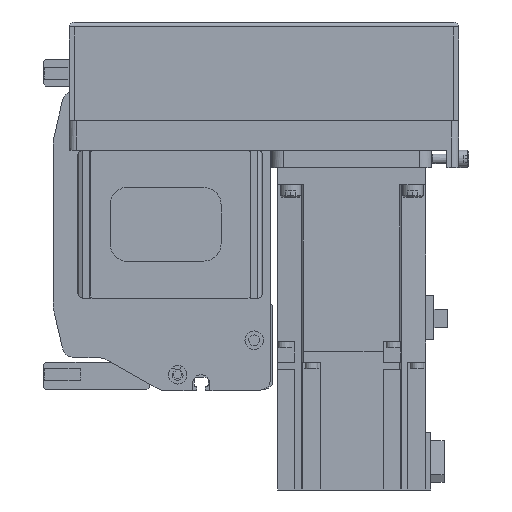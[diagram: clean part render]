
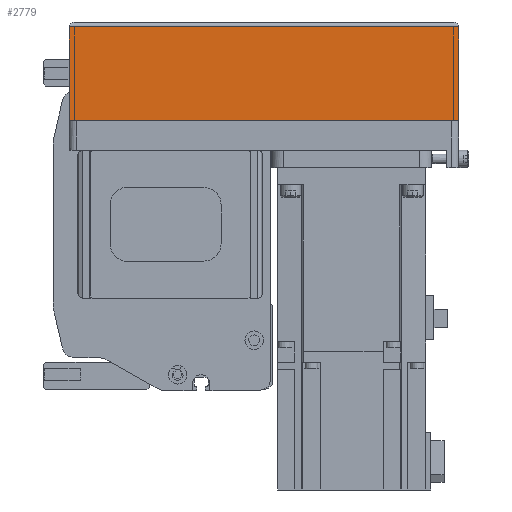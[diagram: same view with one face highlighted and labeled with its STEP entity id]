
A CAD part, left-side view. The second image highlights one B-rep face of the part: STEP entity #2779.
In plain terms, the highlighted planar face has unit normal (-1, 0, 0) as drawn and (0, -1, 0) by its records, which use the part's own axes.
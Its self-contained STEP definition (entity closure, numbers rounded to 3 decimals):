
#2779 = ADVANCED_FACE( '', ( #6081 ), #6082, .T. );
#6081 = FACE_OUTER_BOUND( '', #9833, .T. );
#6082 = PLANE( '', #9834 );
#9833 = EDGE_LOOP( '', ( #17806, #17807, #17808, #17809 ) );
#9834 = AXIS2_PLACEMENT_3D( '', #17810, #17811, #17812 );
#17806 = ORIENTED_EDGE( '', *, *, #24103, .F. );
#17807 = ORIENTED_EDGE( '', *, *, #22066, .F. );
#17808 = ORIENTED_EDGE( '', *, *, #24104, .T. );
#17809 = ORIENTED_EDGE( '', *, *, #21487, .T. );
#17810 = CARTESIAN_POINT( '', ( -158., -39., -12.1 ) );
#17811 = DIRECTION( '', ( 0., -1., 0. ) );
#17812 = DIRECTION( '', ( 0., 0., -1. ) );
#21487 = EDGE_CURVE( '', #25773, #25777, #25779, .T. );
#22066 = EDGE_CURVE( '', #26765, #25584, #26766, .T. );
#24103 = EDGE_CURVE( '', #25584, #25777, #29703, .T. );
#24104 = EDGE_CURVE( '', #26765, #25773, #29704, .T. );
#25584 = VERTEX_POINT( '', #31569 );
#25773 = VERTEX_POINT( '', #31823 );
#25777 = VERTEX_POINT( '', #31828 );
#25779 = LINE( '', #31830, #31831 );
#26765 = VERTEX_POINT( '', #33327 );
#26766 = LINE( '', #33328, #33329 );
#29703 = LINE( '', #38421, #38422 );
#29704 = LINE( '', #38423, #38424 );
#31569 = CARTESIAN_POINT( '', ( 0., -39., -12.1 ) );
#31823 = CARTESIAN_POINT( '', ( -158., -39., -50. ) );
#31828 = CARTESIAN_POINT( '', ( 0., -39., -50. ) );
#31830 = CARTESIAN_POINT( '', ( -158., -39., -50. ) );
#31831 = VECTOR( '', #40191, 1000. );
#33327 = CARTESIAN_POINT( '', ( -158., -39., -12.1 ) );
#33328 = CARTESIAN_POINT( '', ( -158., -39., -12.1 ) );
#33329 = VECTOR( '', #40980, 1000. );
#38421 = CARTESIAN_POINT( '', ( 0., -39., -12.1 ) );
#38422 = VECTOR( '', #43217, 1000. );
#38423 = CARTESIAN_POINT( '', ( -158., -39., -12.1 ) );
#38424 = VECTOR( '', #43218, 1000. );
#40191 = DIRECTION( '', ( 1., 0., 0. ) );
#40980 = DIRECTION( '', ( 1., 0., 0. ) );
#43217 = DIRECTION( '', ( 0., 0., -1. ) );
#43218 = DIRECTION( '', ( 0., 0., -1. ) );
